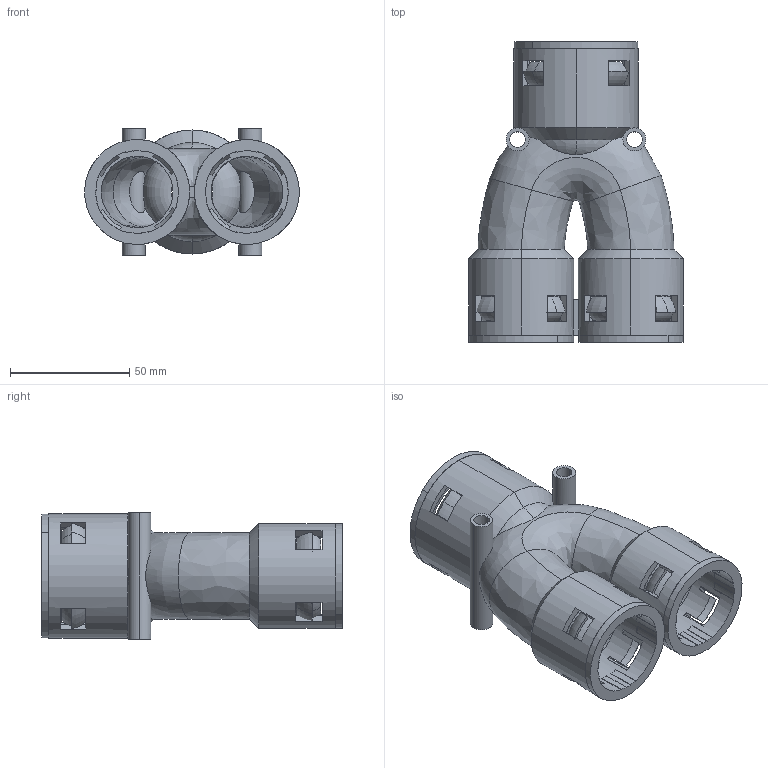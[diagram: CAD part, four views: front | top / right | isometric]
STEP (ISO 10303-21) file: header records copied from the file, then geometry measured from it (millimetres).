
FILE_DESCRIPTION (( 'STEP AP203' ), '1' );
FILE_NAME ('WQY-PA-AD42.5-2X34.5.STEP', '2012-06-07T07:27:14', ( '迾輿躂瑞' ), ( 'WwW.YlmF.CoM' ), 'SwSTEP 2.0', 'SolidWorks 2010', '' );
FILE_SCHEMA (( 'CONFIG_CONTROL_DESIGN' ));
Length unit declared in the file: millimetre
Products named in the file (4): WQY-PA-AD42.5-2X342.5; WQY-PA-AD42.5-2X34.5; NSK-AD42.5; NSK-AD34.5
Assembly tree (4 placements, depth 2):
  WQY-PA-AD42.5-2X34.5
    WQY-PA-AD42.5-2X342.5
    NSK-AD34.5  x2
    NSK-AD42.5
Bounding box: 90 x 126 x 53 mm (x, y, z)
Volume: 96115.3 mm3; surface area: 77401.2 mm2
Topology: 4 solids, 4 shells, 411 faces, 1172 edges, 764 vertices
Faces by surface type: plane 243, cylinder 81, torus 38, cone 32, bspline 17
Entity records: 11855 total; most frequent: CARTESIAN_POINT 3430, ORIENTED_EDGE 1716, DIRECTION 1677, EDGE_CURVE 858, AXIS2_PLACEMENT_3D 651, VERTEX_POINT 558, VECTOR 375, LINE 375
